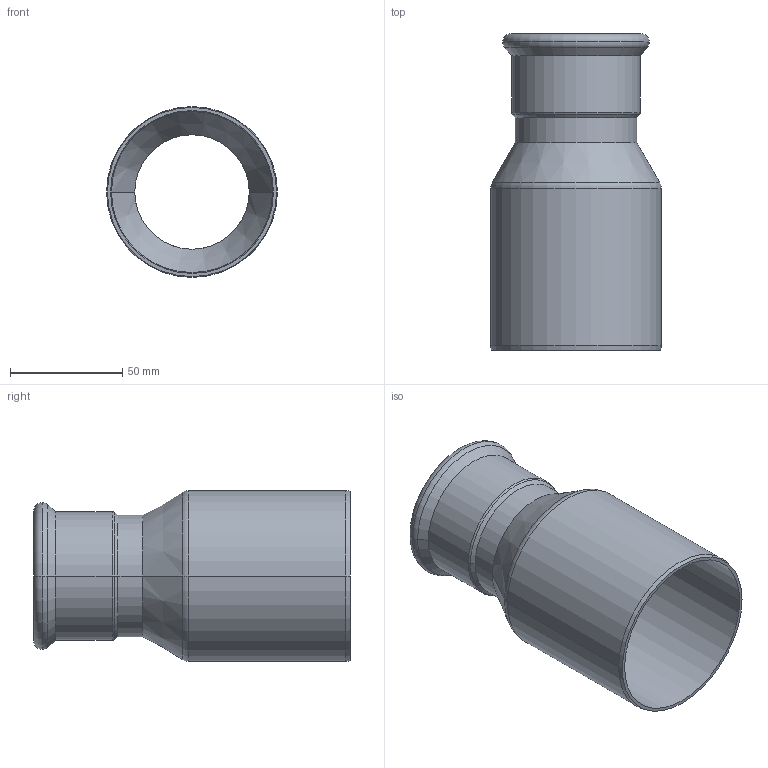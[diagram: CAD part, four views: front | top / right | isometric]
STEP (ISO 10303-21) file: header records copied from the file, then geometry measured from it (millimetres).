
FILE_DESCRIPTION(('CoCreate Modeling STEP Export'),'2;1');
FILE_NAME('C1407 54x76.1.stp','2014-11-07T16:37:35',(''),(''),'CoCreate Modeling STEP processor for AP214 (Solid Model)','CoCreate Modeling 17.00A 17-Jun-2010 (C) Parametric Technology GmbH','');
FILE_SCHEMA(('AUTOMOTIVE_DESIGN { 1 0 10303 214 1 1 1 1 }'));
Length unit declared in the file: millimetre
Products named in the file (2): C1407_54x76
Assembly tree (1 placements, depth 2):
  C1407_54x76
    C1407_54x76
Bounding box: 76.1 x 141 x 76.1 mm (x, y, z)
Volume: 56493.5 mm3; surface area: 61747.8 mm2
Topology: 1 solids, 1 shells, 38 faces, 77 edges, 43 vertices
Faces by surface type: cylinder 14, torus 10, cone 10, plane 4
Entity records: 843 total; most frequent: ORIENTED_EDGE 154, DIRECTION 130, CARTESIAN_POINT 120, EDGE_CURVE 77, AXIS2_PLACEMENT_3D 53, VERTEX_POINT 43, EDGE_LOOP 42, FACE_OUTER_BOUND 38
